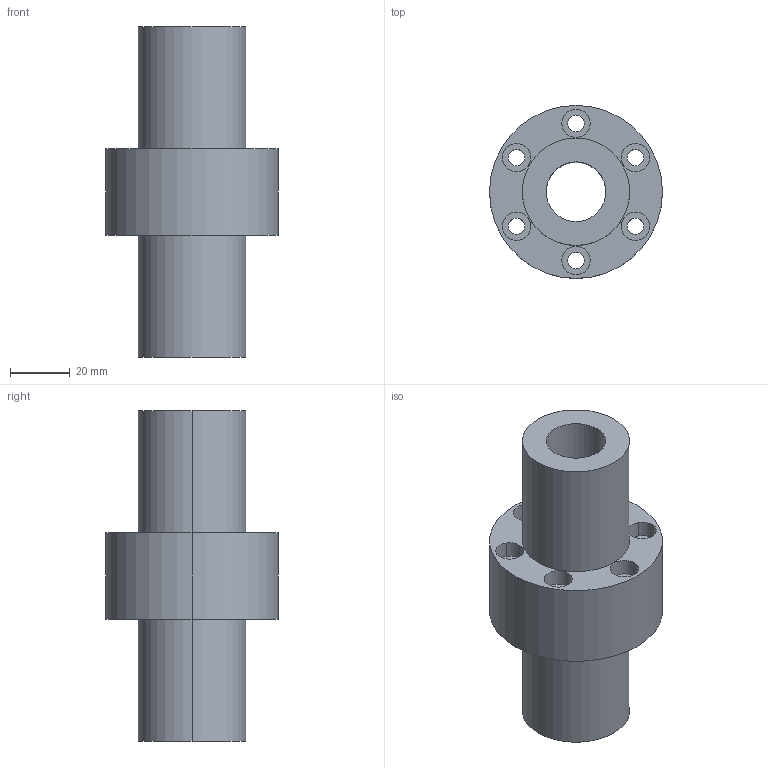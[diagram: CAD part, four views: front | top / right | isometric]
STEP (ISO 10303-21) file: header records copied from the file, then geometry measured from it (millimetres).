
FILE_DESCRIPTION((''),'2;1');
FILE_NAME('20-6T3','2008-04-03T',('yanyu'),(''),'PRO/ENGINEER BY PARAMETRIC TECHNOLOGY CORPORATION, 2005070','PRO/ENGINEER BY PARAMETRIC TECHNOLOGY CORPORATION, 2005070','');
FILE_SCHEMA(('CONFIG_CONTROL_DESIGN'));
Length unit declared in the file: millimetre
Products named in the file (1): 20-6T3
Bounding box: 58 x 58 x 111 mm (x, y, z)
Volume: 119525.4 mm3; surface area: 29324.4 mm2
Topology: 1 solids, 1 shells, 42 faces, 100 edges, 68 vertices
Faces by surface type: cylinder 32, plane 10
Entity records: 1330 total; most frequent: DIRECTION 252, CARTESIAN_POINT 210, ORIENTED_EDGE 200, AXIS2_PLACEMENT_3D 110, EDGE_CURVE 100, VERTEX_POINT 68, CIRCLE 68, EDGE_LOOP 64
